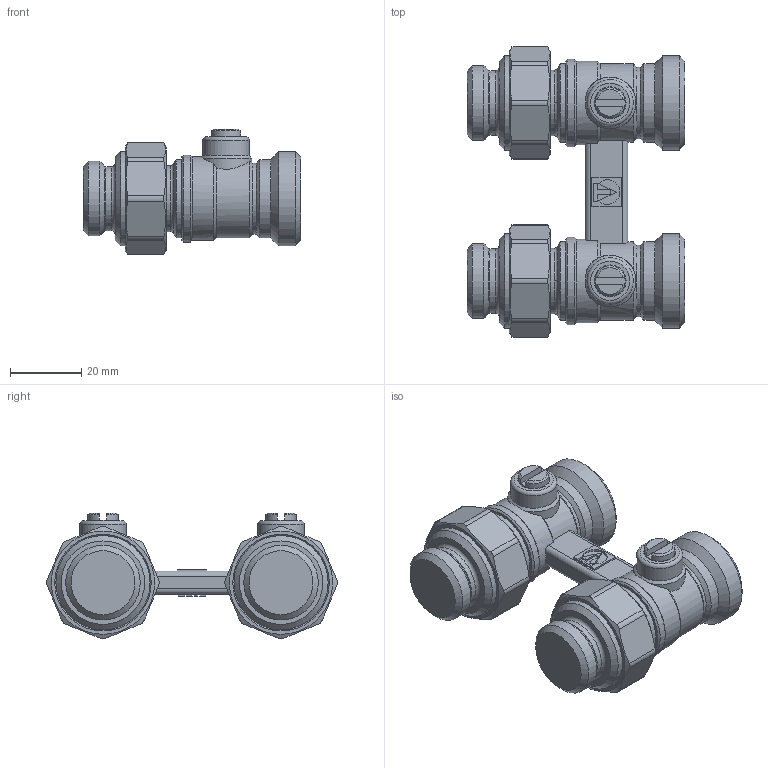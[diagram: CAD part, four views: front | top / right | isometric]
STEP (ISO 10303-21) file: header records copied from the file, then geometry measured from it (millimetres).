
FILE_DESCRIPTION(('STEP AP203'), '1');
FILE_NAME('VT.345K.N.E04', '2024-06-28T08:51:00', ('User'), ('Vesta'), 'C3D Converter', 'C3D Toolkit', '');
FILE_SCHEMA(('CONFIG_CONTROL_DESIGN'));
Length unit declared in the file: millimetre
Products named in the file (1): ВР.491816.005.000 СБ
Bounding box: 61.15 x 81.6 x 35.35 mm (x, y, z)
Volume: 59900.9 mm3; surface area: 16310.2 mm2
Topology: 1 solids, 4 shells, 387 faces, 1014 edges, 664 vertices
Faces by surface type: plane 148, extrusion 113, cylinder 65, cone 44, torus 15, sphere 1, bspline 1
Full cylindrical faces by diameter (mm): 8.5 x2, 8.95 x2, 9 x2, 13 x2, 16 x2, 17.9 x2, 18 x3, 18.5 x2, 20 x2, 20.955 x2, 22 x4, 22.2 x2, 23.5 x1, 23.53 x1, 24.5 x2, 26.441 x4
Entity records: 14945 total; most frequent: CARTESIAN_POINT 6189, ORIENTED_EDGE 1884, DIRECTION 1431, EDGE_CURVE 942, VERTEX_POINT 664, VECTOR 535, EDGE_LOOP 491, B_SPLINE_CURVE_WITH_KNOTS 459
